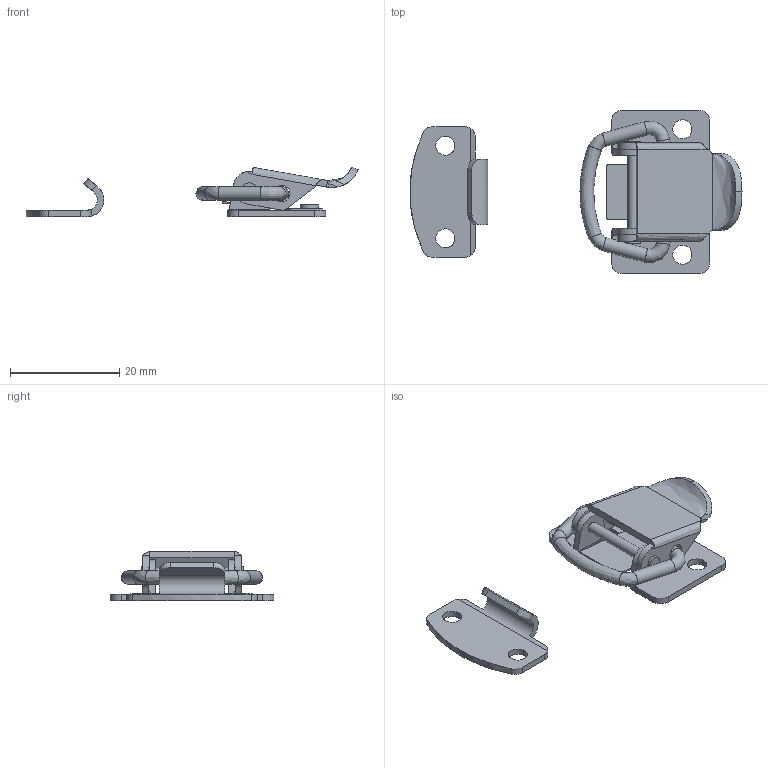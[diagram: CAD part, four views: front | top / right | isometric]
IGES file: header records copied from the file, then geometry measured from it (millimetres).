
Global section: file name: DR_C-E3; native system: Autodesk Inventor 2015; preprocessor: unknown; author: Administrator; date: 20191104.143653; units: millimetre
Bounding box: 60.91 x 30 x 9.07 mm (x, y, z)
Volume: 1863.9 mm3; surface area: 3722.6 mm2
Topology: 4 solids, 4 shells, 150 faces, 408 edges, 264 vertices
Faces by surface type: bspline 150
